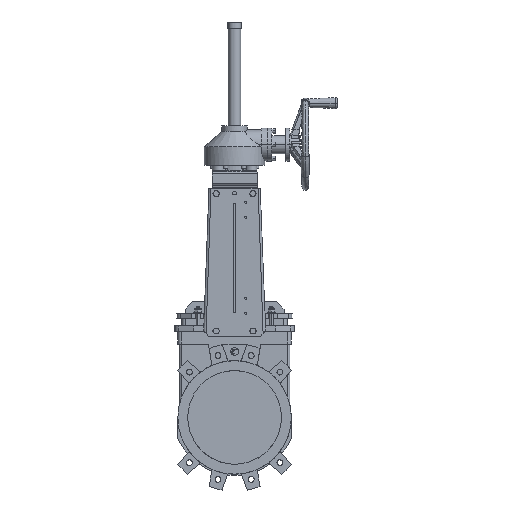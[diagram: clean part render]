
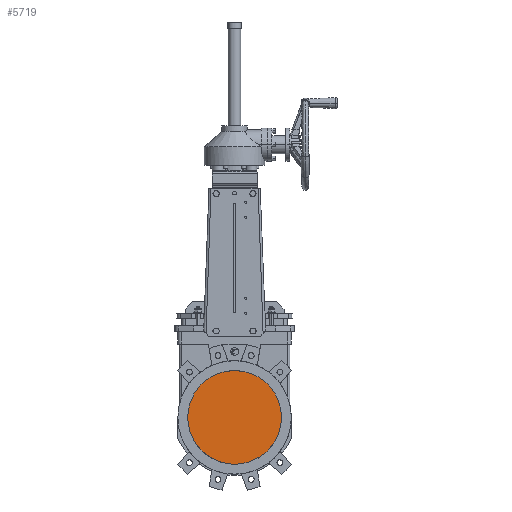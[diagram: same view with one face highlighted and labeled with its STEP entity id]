
A CAD part, top view. The second image highlights one B-rep face of the part: STEP entity #5719.
In plain terms, the highlighted planar face has unit normal (0, 0, 1).
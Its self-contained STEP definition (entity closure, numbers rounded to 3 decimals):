
#4747 = VERTEX_POINT ( 'NONE', #23166 ) ;
#5006 = EDGE_CURVE ( 'NONE', #5028, #4747, #23600, .T. ) ;
#5028 = VERTEX_POINT ( 'NONE', #23689 ) ;
#5719 = ADVANCED_FACE ( 'NONE', ( #25307 ), #25303, .T. ) ;
#7043 = EDGE_LOOP ( 'NONE', ( #12879, #12881, #12882, #12801 ) ) ;
#12801 = ORIENTED_EDGE ( 'NONE', *, *, #19411, .T. ) ;
#12879 = ORIENTED_EDGE ( 'NONE', *, *, #12880, .T. ) ;
#12880 = EDGE_CURVE ( 'NONE', #18996, #5028, #34879, .T. ) ;
#12881 = ORIENTED_EDGE ( 'NONE', *, *, #5006, .T. ) ;
#12882 = ORIENTED_EDGE ( 'NONE', *, *, #12883, .F. ) ;
#12883 = EDGE_CURVE ( 'NONE', #19216, #4747, #34872, .T. ) ;
#18996 = VERTEX_POINT ( 'NONE', #36044 ) ;
#19216 = VERTEX_POINT ( 'NONE', #36111 ) ;
#19411 = EDGE_CURVE ( 'NONE', #19216, #18996, #36163, .T. ) ;
#23166 = CARTESIAN_POINT ( 'NONE',  ( -135., 52.915, 5. ) ) ;
#23596 = DIRECTION ( 'NONE',  ( 1., 0., 0. ) ) ;
#23597 = DIRECTION ( 'NONE',  ( 0., 0., 1. ) ) ;
#23598 = CARTESIAN_POINT ( 'NONE',  ( 0., 0., 5. ) ) ;
#23599 = AXIS2_PLACEMENT_3D ( 'NONE', #23598, #23597, #23596 ) ;
#23600 = CIRCLE ( 'NONE', #23599, 145. ) ;
#23689 = CARTESIAN_POINT ( 'NONE',  ( 135., 52.915, 5. ) ) ;
#25297 = DIRECTION ( 'NONE',  ( 1., 0., 0. ) ) ;
#25298 = DIRECTION ( 'NONE',  ( 0., 0., 1. ) ) ;
#25299 = CARTESIAN_POINT ( 'NONE',  ( -135., -198.116, 5. ) ) ;
#25302 = AXIS2_PLACEMENT_3D ( 'NONE', #25299, #25298, #25297 ) ;
#25303 = PLANE ( 'NONE',  #25302 ) ;
#25307 = FACE_OUTER_BOUND ( 'NONE', #7043, .T. ) ;
#34869 = DIRECTION ( 'NONE',  ( 0., 1., 0. ) ) ;
#34870 = VECTOR ( 'NONE', #34869, 1000. ) ;
#34871 = CARTESIAN_POINT ( 'NONE',  ( -135., -198.116, 5. ) ) ;
#34872 = LINE ( 'NONE', #34871, #34870 ) ;
#34873 = DIRECTION ( 'NONE',  ( 0., 1., 0. ) ) ;
#34874 = VECTOR ( 'NONE', #34873, 1000. ) ;
#34876 = CARTESIAN_POINT ( 'NONE',  ( 135., -198.116, 5. ) ) ;
#34879 = LINE ( 'NONE', #34876, #34874 ) ;
#36044 = CARTESIAN_POINT ( 'NONE',  ( 135., -34.159, 5. ) ) ;
#36111 = CARTESIAN_POINT ( 'NONE',  ( -135., -34.159, 5. ) ) ;
#36159 = DIRECTION ( 'NONE',  ( 1., 0., 0. ) ) ;
#36160 = DIRECTION ( 'NONE',  ( 0., 0., 1. ) ) ;
#36161 = CARTESIAN_POINT ( 'NONE',  ( 0., 13., 5. ) ) ;
#36162 = AXIS2_PLACEMENT_3D ( 'NONE', #36161, #36160, #36159 ) ;
#36163 = CIRCLE ( 'NONE', #36162, 143. ) ;
